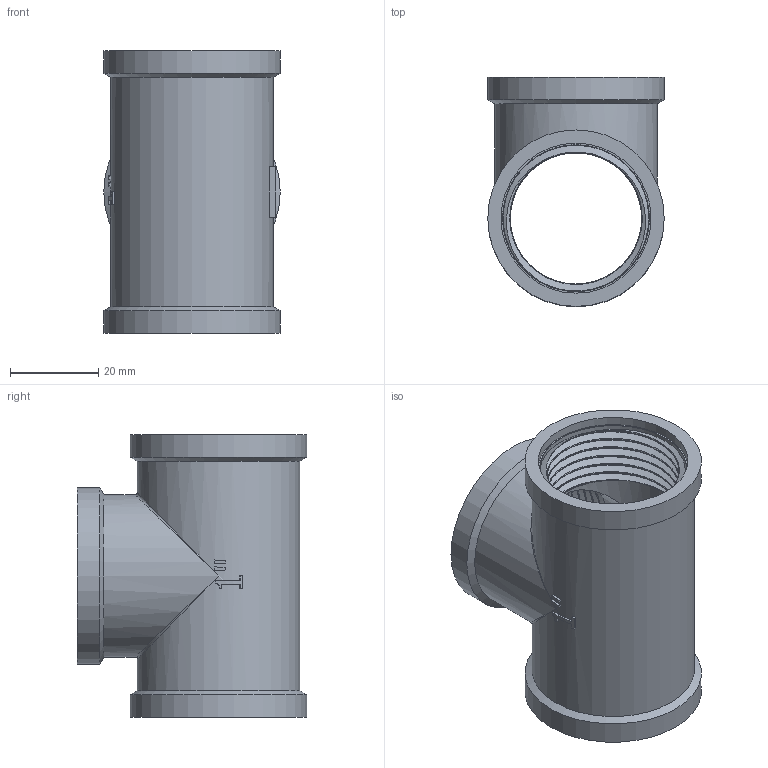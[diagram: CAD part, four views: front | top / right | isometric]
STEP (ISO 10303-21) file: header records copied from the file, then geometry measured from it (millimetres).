
FILE_DESCRIPTION(/* description */ (''),/* implementation_level */ '2;1');
FILE_NAME(/* name */ 'C:\Users\Doom\Desktop\Фадотех\Резьба\T03 18.03.2020\T03 18.03.2020.stp',/* time_stamp */ '2022-01-19T21:45:25+02:00',/* author */ ('Doom'),/* organization */ (''),/* preprocessor_version */ 'ST-DEVELOPER v18',/* originating_system */ 'Autodesk Inventor 2020',/* authorisation */ '');
FILE_SCHEMA (('AUTOMOTIVE_DESIGN { 1 0 10303 214 3 1 1 }'));
Length unit declared in the file: millimetre
Products named in the file (1): T03 18.03.2020
Bounding box: 40 x 52 x 64 mm (x, y, z)
Volume: 30598.1 mm3; surface area: 31699 mm2
Topology: 4 solids, 4 shells, 127 faces, 343 edges, 232 vertices
Faces by surface type: plane 50, cylinder 45, bspline 29, cone 3
Full cylindrical faces by diameter (mm): 29.816 x20, 30.29 x2, 33.24 x6, 34 x3, 36.8 x2, 40 x3
Entity records: 14793 total; most frequent: CARTESIAN_POINT 11753, ORIENTED_EDGE 682, DIRECTION 514, EDGE_CURVE 341, VERTEX_POINT 232, AXIS2_PLACEMENT_3D 189, EDGE_LOOP 147, LINE 136
